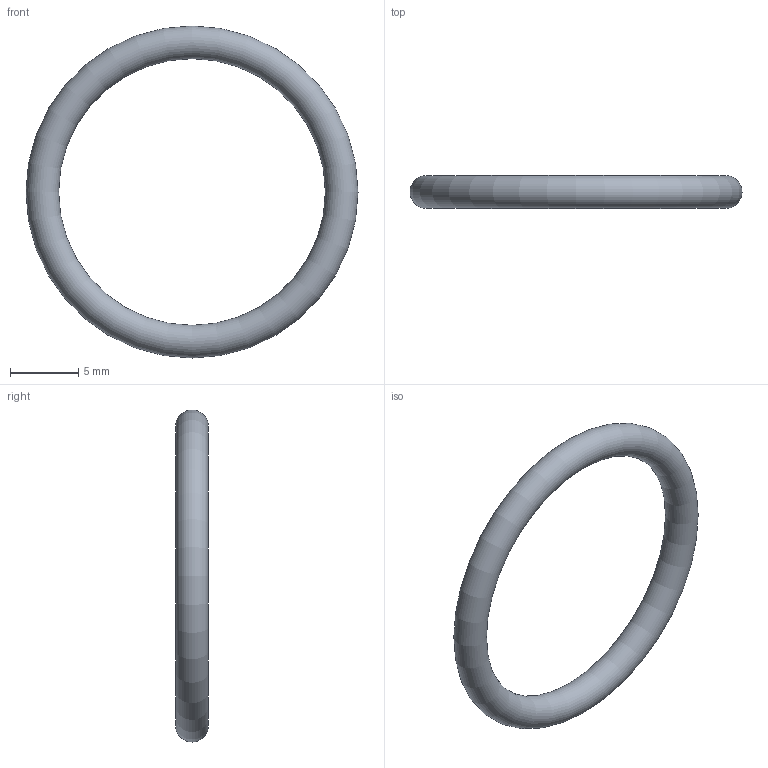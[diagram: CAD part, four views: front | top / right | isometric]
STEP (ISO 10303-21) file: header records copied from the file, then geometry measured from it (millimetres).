
FILE_DESCRIPTION( ( 'STEP AP203' ), '1' );
FILE_NAME( 'C:/Temp/Ganter_Step_05_03_2020/data/3_5/or638/O-Ring OR638-19.60-2.40-70.stp', '2020-03-12T13:44:26', ( 'License CC BY-ND 4.0' ), ( 'CADENAS' ), ' ', 'PARTsolutions', ' ' );
FILE_SCHEMA( ( 'CONFIG_CONTROL_DESIGN' ) );
Length unit declared in the file: millimetre
Products named in the file (1): _O-Ring OR638-19.60-2.40-70
Bounding box: 24.4 x 2.4 x 24.4 mm (x, y, z)
Volume: 312.7 mm3; surface area: 521.1 mm2
Topology: 1 solids, 1 shells, 1 faces, 2 edges, 1 vertices
Faces by surface type: torus 1
Entity records: 62 total; most frequent: CC_DESIGN_PERSON_AND_ORGANIZATION_ASSIGNMENT 5, PERSON_AND_ORGANIZATION_ROLE 4, DIRECTION 4, CARTESIAN_POINT 3, DATE_TIME_ROLE 2, CC_DESIGN_DATE_AND_TIME_ASSIGNMENT 2, AXIS2_PLACEMENT_3D 2, DIMENSIONAL_EXPONENTS 2
